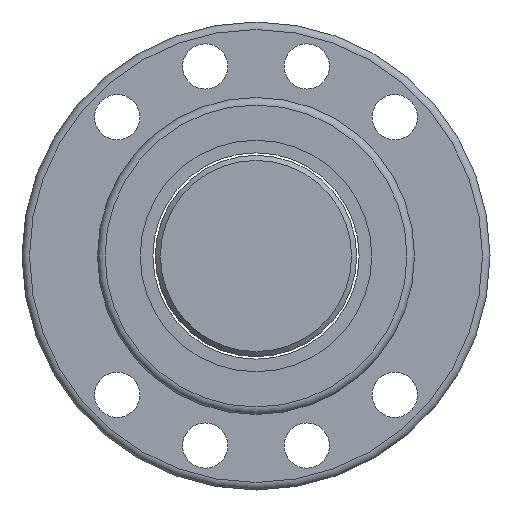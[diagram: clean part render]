
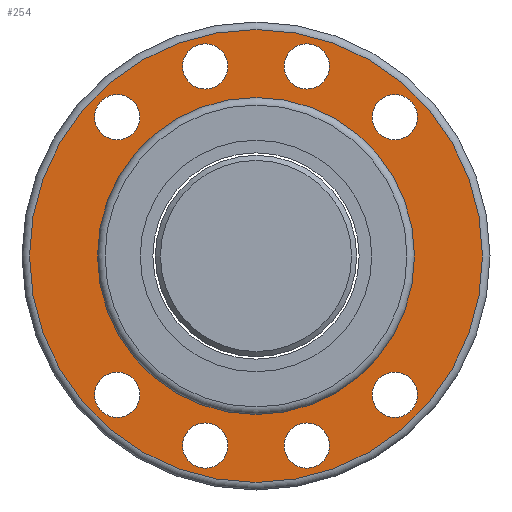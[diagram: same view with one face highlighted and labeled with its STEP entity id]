
A CAD part, left-side view. The second image highlights one B-rep face of the part: STEP entity #254.
In plain terms, the highlighted planar face has unit normal (-1, 0, 0).
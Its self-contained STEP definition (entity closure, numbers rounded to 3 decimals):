
#185=FACE_BOUND('',#365,.T.);
#186=FACE_BOUND('',#366,.T.);
#187=FACE_BOUND('',#367,.T.);
#188=FACE_BOUND('',#368,.T.);
#189=FACE_BOUND('',#369,.T.);
#190=FACE_BOUND('',#370,.T.);
#191=FACE_BOUND('',#371,.T.);
#192=FACE_BOUND('',#372,.T.);
#193=FACE_BOUND('',#374,.T.);
#254=ADVANCED_FACE('',(#185,#186,#187,#188,#189,#190,#191,#192,#301,#193),
#284,.F.);
#284=PLANE('',#748);
#301=FACE_OUTER_BOUND('',#373,.T.);
#365=EDGE_LOOP('',(#471));
#366=EDGE_LOOP('',(#472));
#367=EDGE_LOOP('',(#473));
#368=EDGE_LOOP('',(#474));
#369=EDGE_LOOP('',(#475));
#370=EDGE_LOOP('',(#476));
#371=EDGE_LOOP('',(#477));
#372=EDGE_LOOP('',(#478));
#373=EDGE_LOOP('',(#479));
#374=EDGE_LOOP('',(#480));
#471=ORIENTED_EDGE('',*,*,#605,.T.);
#472=ORIENTED_EDGE('',*,*,#606,.T.);
#473=ORIENTED_EDGE('',*,*,#607,.T.);
#474=ORIENTED_EDGE('',*,*,#608,.T.);
#475=ORIENTED_EDGE('',*,*,#609,.T.);
#476=ORIENTED_EDGE('',*,*,#610,.T.);
#477=ORIENTED_EDGE('',*,*,#611,.T.);
#478=ORIENTED_EDGE('',*,*,#612,.T.);
#479=ORIENTED_EDGE('',*,*,#604,.F.);
#480=ORIENTED_EDGE('',*,*,#613,.T.);
#551=VERTEX_POINT('',#1072);
#552=VERTEX_POINT('',#1075);
#553=VERTEX_POINT('',#1077);
#554=VERTEX_POINT('',#1079);
#555=VERTEX_POINT('',#1081);
#556=VERTEX_POINT('',#1083);
#557=VERTEX_POINT('',#1085);
#558=VERTEX_POINT('',#1087);
#559=VERTEX_POINT('',#1089);
#560=VERTEX_POINT('',#1091);
#604=EDGE_CURVE('',#551,#551,#657,.T.);
#605=EDGE_CURVE('',#552,#552,#658,.T.);
#606=EDGE_CURVE('',#553,#553,#659,.T.);
#607=EDGE_CURVE('',#554,#554,#660,.T.);
#608=EDGE_CURVE('',#555,#555,#661,.T.);
#609=EDGE_CURVE('',#556,#556,#662,.T.);
#610=EDGE_CURVE('',#557,#557,#663,.T.);
#611=EDGE_CURVE('',#558,#558,#664,.T.);
#612=EDGE_CURVE('',#559,#559,#665,.T.);
#613=EDGE_CURVE('',#560,#560,#666,.T.);
#657=CIRCLE('',#737,45.);
#658=CIRCLE('',#739,4.5);
#659=CIRCLE('',#740,4.5);
#660=CIRCLE('',#741,4.5);
#661=CIRCLE('',#742,4.5);
#662=CIRCLE('',#743,4.5);
#663=CIRCLE('',#744,4.5);
#664=CIRCLE('',#745,4.5);
#665=CIRCLE('',#746,4.5);
#666=CIRCLE('',#747,31.5);
#737=AXIS2_PLACEMENT_3D('',#1071,#898,#899);
#739=AXIS2_PLACEMENT_3D('',#1074,#902,#903);
#740=AXIS2_PLACEMENT_3D('',#1076,#904,#905);
#741=AXIS2_PLACEMENT_3D('',#1078,#906,#907);
#742=AXIS2_PLACEMENT_3D('',#1080,#908,#909);
#743=AXIS2_PLACEMENT_3D('',#1082,#910,#911);
#744=AXIS2_PLACEMENT_3D('',#1084,#912,#913);
#745=AXIS2_PLACEMENT_3D('',#1086,#914,#915);
#746=AXIS2_PLACEMENT_3D('',#1088,#916,#917);
#747=AXIS2_PLACEMENT_3D('',#1090,#918,#919);
#748=AXIS2_PLACEMENT_3D('',#1092,#920,#921);
#898=DIRECTION('',(1.,0.,0.));
#899=DIRECTION('',(0.,0.,-1.));
#902=DIRECTION('',(1.,0.,0.));
#903=DIRECTION('',(0.,0.,-1.));
#904=DIRECTION('',(1.,0.,0.));
#905=DIRECTION('',(0.,0.,-1.));
#906=DIRECTION('',(1.,0.,0.));
#907=DIRECTION('',(0.,0.,-1.));
#908=DIRECTION('',(1.,0.,0.));
#909=DIRECTION('',(0.,0.,-1.));
#910=DIRECTION('',(1.,0.,0.));
#911=DIRECTION('',(0.,0.,-1.));
#912=DIRECTION('',(1.,0.,0.));
#913=DIRECTION('',(0.,0.,-1.));
#914=DIRECTION('',(1.,0.,0.));
#915=DIRECTION('',(0.,0.,-1.));
#916=DIRECTION('',(1.,0.,0.));
#917=DIRECTION('',(0.,0.,-1.));
#918=DIRECTION('',(1.,0.,0.));
#919=DIRECTION('',(0.,0.,-1.));
#920=DIRECTION('',(1.,0.,0.));
#921=DIRECTION('',(0.,0.,-1.));
#1071=CARTESIAN_POINT('',(-29.,0.,0.));
#1072=CARTESIAN_POINT('',(-29.,0.,-45.));
#1074=CARTESIAN_POINT('',(-29.,10.09,-37.67));
#1075=CARTESIAN_POINT('',(-29.,10.09,-42.17));
#1076=CARTESIAN_POINT('',(-29.,-10.09,-37.67));
#1077=CARTESIAN_POINT('',(-29.,-10.09,-42.17));
#1078=CARTESIAN_POINT('',(-29.,-10.09,37.67));
#1079=CARTESIAN_POINT('',(-29.,-10.09,33.17));
#1080=CARTESIAN_POINT('',(-29.,10.09,37.67));
#1081=CARTESIAN_POINT('',(-29.,10.09,33.17));
#1082=CARTESIAN_POINT('',(-29.,27.58,-27.58));
#1083=CARTESIAN_POINT('',(-29.,27.58,-32.08));
#1084=CARTESIAN_POINT('',(-29.,-27.58,-27.58));
#1085=CARTESIAN_POINT('',(-29.,-27.58,-32.08));
#1086=CARTESIAN_POINT('',(-29.,-27.58,27.58));
#1087=CARTESIAN_POINT('',(-29.,-27.58,23.08));
#1088=CARTESIAN_POINT('',(-29.,27.58,27.58));
#1089=CARTESIAN_POINT('',(-29.,27.58,23.08));
#1090=CARTESIAN_POINT('',(-29.,0.,0.));
#1091=CARTESIAN_POINT('',(-29.,0.,-31.5));
#1092=CARTESIAN_POINT('',(-29.,38.25,0.));
